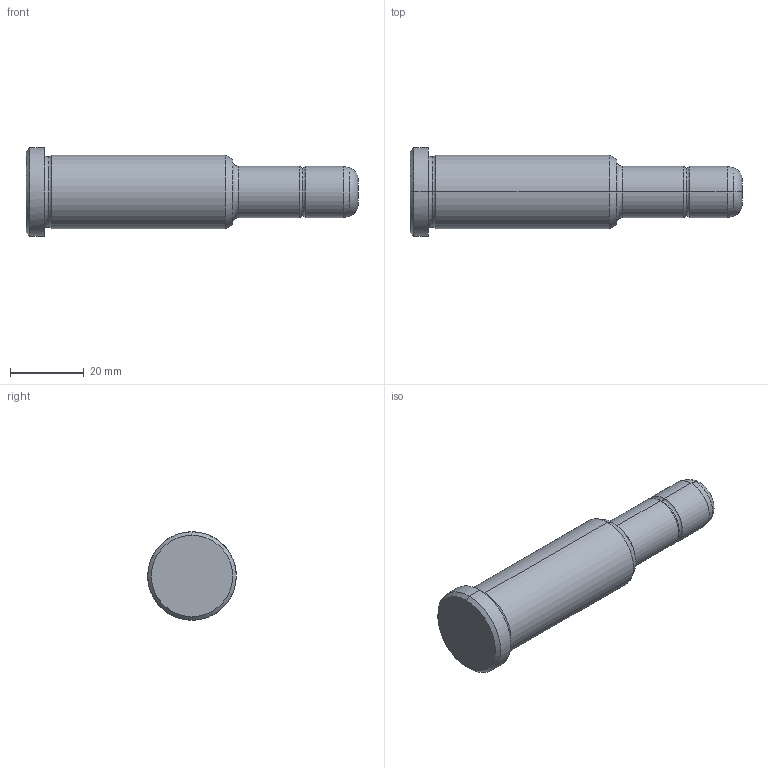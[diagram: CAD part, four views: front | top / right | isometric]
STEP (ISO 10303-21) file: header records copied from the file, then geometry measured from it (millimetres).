
FILE_DESCRIPTION(('CATIA V5 STEP Exchange'),'2;1');
FILE_NAME('C:\Users\Utente\Desktop\IO LAVORO\3D X SITO CF\X SITO\PLASTICA\351\351-14X56X90.stp','2021-08-18T10:26:23+00:00',('none'),('none'),'CATIA Version 5 Release 20 GA (IN-10)','CATIA V5 STEP AP203','none');
FILE_SCHEMA(('CONFIG_CONTROL_DESIGN'));
Length unit declared in the file: millimetre
Products named in the file (1): 351-14X56X90
Bounding box: 90 x 24 x 24 mm (x, y, z)
Volume: 23241.6 mm3; surface area: 5803.1 mm2
Topology: 1 solids, 1 shells, 30 faces, 86 edges, 60 vertices
Faces by surface type: torus 12, cylinder 8, cone 6, plane 4
Entity records: 1112 total; most frequent: CARTESIAN_POINT 289, ORIENTED_EDGE 172, DIRECTION 138, AXIS2_PLACEMENT_3D 95, EDGE_CURVE 86, CIRCLE 64, VERTEX_POINT 60, EDGE_LOOP 32
